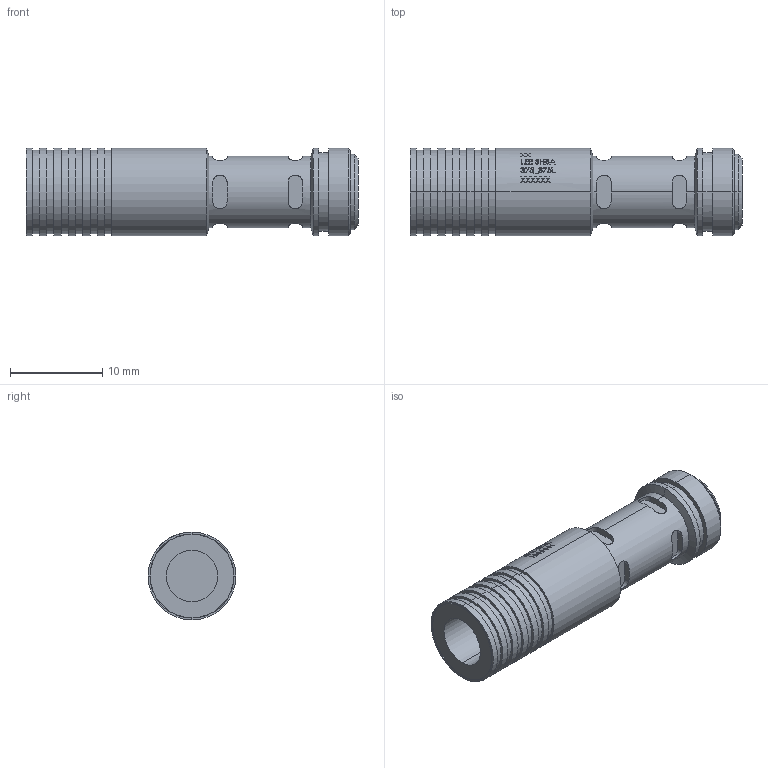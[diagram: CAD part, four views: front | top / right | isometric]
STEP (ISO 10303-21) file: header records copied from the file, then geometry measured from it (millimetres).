
FILE_DESCRIPTION (( 'STEP AP214' ), '1' );
FILE_NAME ('3DSHBA375-375L.STEP', '2021-03-31T20:25:13', ( '' ), ( '' ), 'SwSTEP 2.0', 'SolidWorks 2019', '' );
FILE_SCHEMA (( 'AUTOMOTIVE_DESIGN' ));
Length unit declared in the file: inch
Products named in the file (1): 3DSHBA375-375L
Bounding box: 35.94 x 9.52 x 9.52 mm (x, y, z)
Volume: 1935.6 mm3; surface area: 1516.2 mm2
Topology: 1 solids, 1 shells, 407 faces, 1060 edges, 702 vertices
Faces by surface type: plane 161, bspline 150, cylinder 82, cone 14
Entity records: 19455 total; most frequent: CARTESIAN_POINT 6914, ORIENTED_EDGE 2120, DIRECTION 1254, EDGE_CURVE 1060, VERTEX_POINT 702, B_SPLINE_CURVE_WITH_KNOTS 522, AXIS2_PLACEMENT_3D 458, EDGE_LOOP 454
